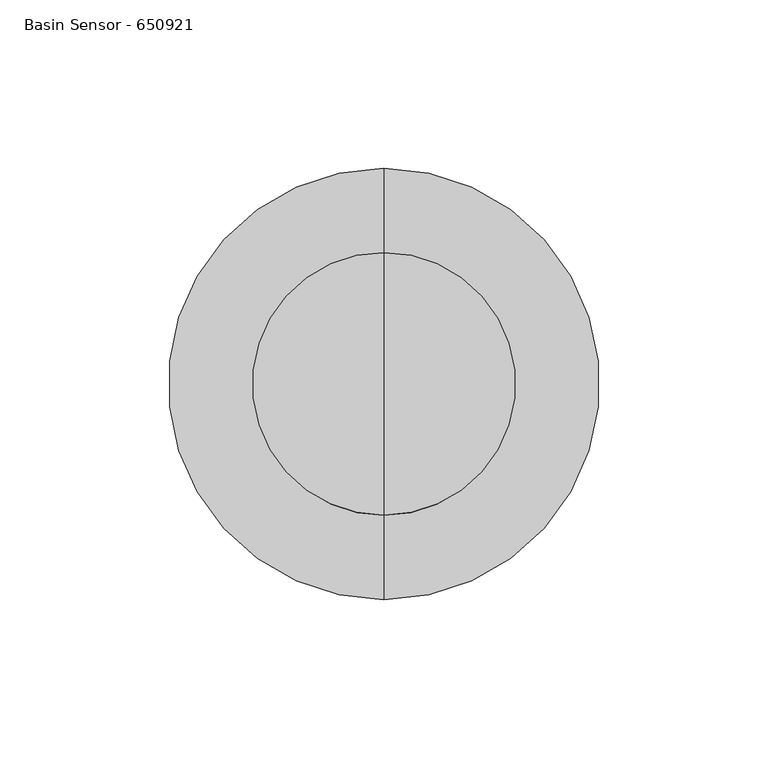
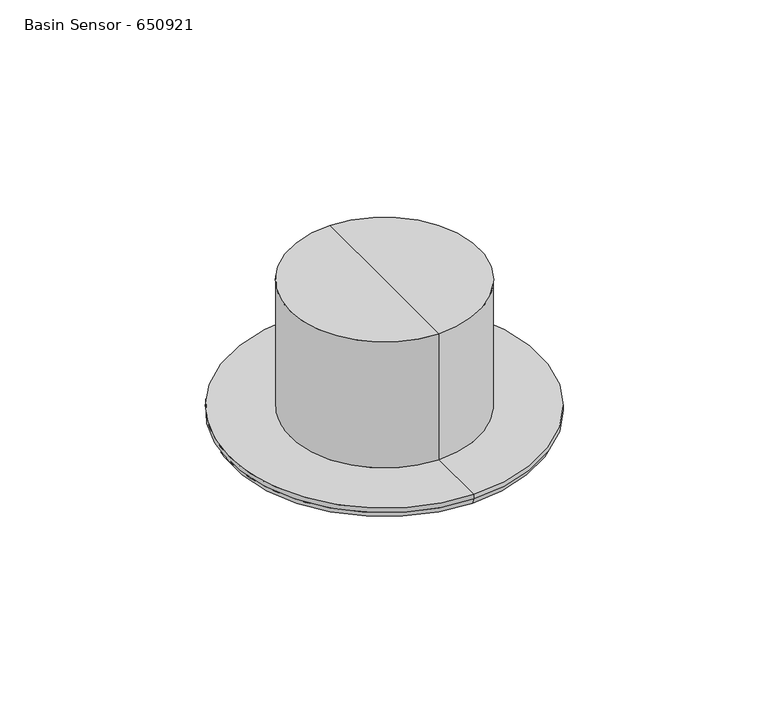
"""IFC4 building model written with IfcOpenShell, lengths in millimetres: flow terminal geometry, Plumbing Fixtures_Sensor_Thornthwaite_Rada Mono 124 : Basin Sensor - 650921."""

from ifc_helpers import new_model, si_unit, point, frame, origin, place, context, project, spatial, circle_curve, ellipse_curve, trimmed, source, transform, mapped, element, save
from ifc_brep_helpers import plane_surface, cylinder_surface, revolved_surface, advanced_brep


def basin_sensor_650921_deac0942(model_context):
    return source(origin(), model_context, "Body", "AdvancedBrep", [
        advanced_brep(
        [(0.0, -64.0, 2698.0), (0.0, 64.0, 2698.0), (0.0, 0.0, 2685.0), (0.0, -64.0, 2700.0), (0.0, 64.0, 2700.0), (0.0, -39.0, 2700.0), (0.0, 39.0, 2700.0), (0.0, -39.0, 2755.0), (0.0, 39.0, 2755.0), (0.0, 0.0, 2755.0)],
        [
            (0, 1, circle_curve(frame((0.0, 0.0, 2698.0), z_axis=(0.0, 0.0, -1.0), x_axis=(0.0, 1.0, 0.0)), 64.0)),
            (1, 2, ellipse_curve(frame((0.0, 0.0, 2698.0), z_axis=(-1.0, 0.0, 0.0), x_axis=(0.0, -1.0, 0.0)), 64.0, 13.0)),
            (2, 0, ellipse_curve(frame((0.0, 0.0, 2698.0), z_axis=(-1.0, 0.0, 0.0), x_axis=(0.0, 1.0, 0.0)), 64.0, 13.0)),
            (1, 0, circle_curve(frame((0.0, 0.0, 2698.0), z_axis=(0.0, 0.0, -1.0), x_axis=(0.0, 1.0, 0.0)), 64.0)),
            (3, 4, circle_curve(frame((0.0, 0.0, 2700.0), z_axis=(0.0, 0.0, -1.0), x_axis=(0.0, 1.0, 0.0)), 64.0)),
            (4, 1),
            (0, 3),
            (4, 3, circle_curve(frame((0.0, 0.0, 2700.0), z_axis=(0.0, 0.0, -1.0), x_axis=(0.0, 1.0, 0.0)), 64.0)),
            (5, 6, circle_curve(frame((0.0, 0.0, 2700.0), z_axis=(0.0, 0.0, -1.0), x_axis=(0.0, 1.0, 0.0)), 39.0)),
            (6, 4),
            (3, 5),
            (6, 5, circle_curve(frame((0.0, 0.0, 2700.0), z_axis=(0.0, 0.0, -1.0), x_axis=(0.0, 1.0, 0.0)), 39.0)),
            (7, 8, circle_curve(frame((0.0, 0.0, 2755.0), z_axis=(0.0, 0.0, -1.0), x_axis=(0.0, 1.0, 0.0)), 39.0)),
            (8, 6),
            (5, 7),
            (8, 7, circle_curve(frame((0.0, 0.0, 2755.0), z_axis=(0.0, 0.0, -1.0), x_axis=(0.0, 1.0, 0.0)), 39.0)),
            (9, 8),
            (7, 9),
        ],
        [
            revolved_surface(trimmed(ellipse_curve(frame((0.0, 0.0, 2698.0), z_axis=(1.0, 0.0, 0.0), x_axis=(0.0, -1.0, 0.0)), 64.0, 13.0), [point((0.0, 0.0, 2685.0))], [point((0.0, 64.0, 2698.0))], True, "CARTESIAN"), (0.0, 0.0, 2850.0), (0.0, 0.0, 1.0)),
            cylinder_surface(frame((0.0, 0.0, 2850.0), z_axis=(0.0, 0.0, 1.0), x_axis=(0.0, 1.0, 0.0)), 64.0),
            plane_surface(frame((0.0, 0.0, 2700.0), z_axis=(0.0, 0.0, 1.0), x_axis=(0.0, 1.0, 0.0))),
            cylinder_surface(frame((0.0, 0.0, 2850.0), z_axis=(0.0, 0.0, 1.0), x_axis=(0.0, 1.0, 0.0)), 39.0),
            plane_surface(frame((0.0, 0.0, 2755.0), z_axis=(0.0, 0.0, 1.0), x_axis=(0.0, 1.0, 0.0))),
        ],
        [
            (0, [[1, 2, 3]]),
            (0, [[4, -3, -2]]),
            (1, [[5, 6, -1, 7]]),
            (1, [[8, -7, -4, -6]]),
            (2, [[9, 10, -5, 11]]),
            (2, [[12, -11, -8, -10]]),
            (3, [[13, 14, -9, 15]]),
            (3, [[16, -15, -12, -14]]),
            (4, [[17, -13, 18]]),
            (4, [[-18, -16, -17]]),
        ],
    ),
    ])


if __name__ == "__main__":
    model = new_model("IFC4")
    model_context = context("Model", 3, world=origin())
    ifc_project = project(units=[si_unit("LENGTHUNIT", "METRE", prefix="MILLI")], contexts=[model_context])
    site = spatial("IfcSite", under=ifc_project)
    building = spatial("IfcBuilding", under=site)
    placement = place(None, origin())
    basin_sensor_650921_shape = basin_sensor_650921_deac0942(model_context)
    element("IfcFlowTerminal", 1, ObjectType="Plumbing Fixtures_Sensor_Thornthwaite_Rada Mono 124 : Basin Sensor - 650921", at=placement, inside=building, context=model_context, shape_type="MappedRepresentation", body=[
        mapped(basin_sensor_650921_shape, transform((0.0, 0.0, 0.0), x_axis=(1.0, 0.0, 0.0), y_axis=(0.0, 1.0, 0.0), z_axis=(0.0, 0.0, 1.0))),
    ])
    save(model, "model.ifc")
